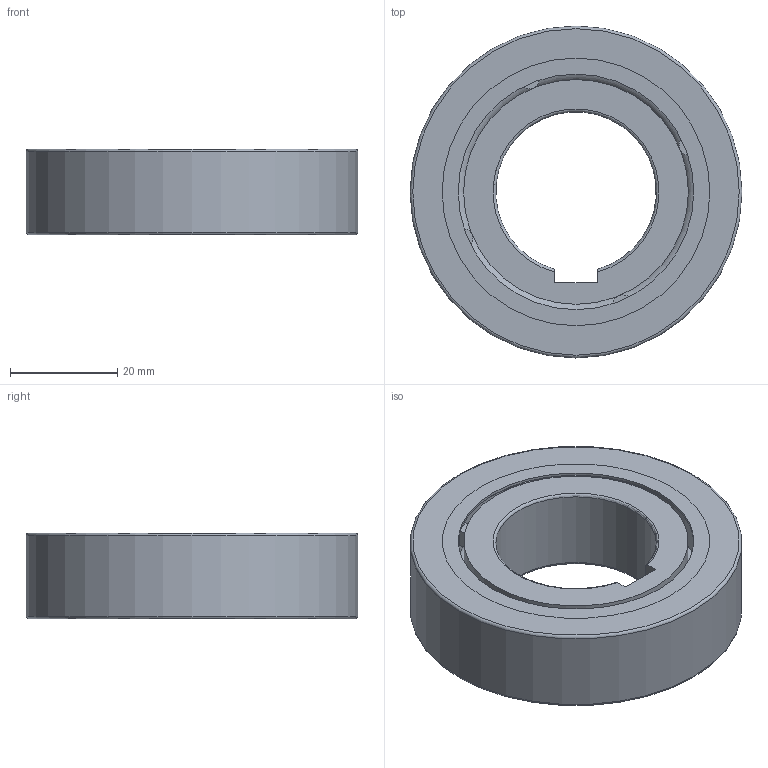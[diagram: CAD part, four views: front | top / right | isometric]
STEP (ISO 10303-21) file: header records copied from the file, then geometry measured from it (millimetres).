
FILE_DESCRIPTION(/* description */ (''),/* implementation_level */ '2;1');
FILE_NAME(/* name */ '305998 FKNN 6206.stp',/* time_stamp */ '2016-11-24T12:35:10+01:00',/* author */ (''),/* organization */ (''),/* preprocessor_version */ 'ST-DEVELOPER v15',/* originating_system */ 'SIEMENS PLM Software NX 8.5',/* authorisation */ '');
FILE_SCHEMA (('CONFIG_CONTROL_DESIGN'));
Length unit declared in the file: millimetre
Products named in the file (3): ATE0000079_01; ATE0000114_01; ATE0000117_01
Assembly tree (2 placements, depth 2):
  ATE0000117_01
    ATE0000114_01
    ATE0000079_01
Bounding box: 62 x 62 x 16 mm (x, y, z)
Volume: 31384.6 mm3; surface area: 16730.6 mm2
Topology: 3 solids, 3 shells, 71 faces, 161 edges, 106 vertices
Faces by surface type: plane 45, cylinder 20, torus 6
Full cylindrical faces by diameter (mm): 42 x2, 44 x1, 46 x1, 48 x1, 49 x2, 50 x3, 62 x1
Entity records: 2241 total; most frequent: CARTESIAN_POINT 381, DIRECTION 342, ORIENTED_EDGE 276, EDGE_CURVE 138, AXIS2_PLACEMENT_3D 134, EDGE_LOOP 104, VERTEX_POINT 100, LINE 74
